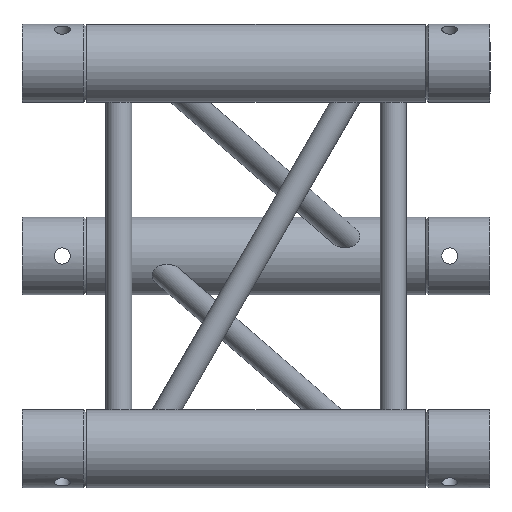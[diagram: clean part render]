
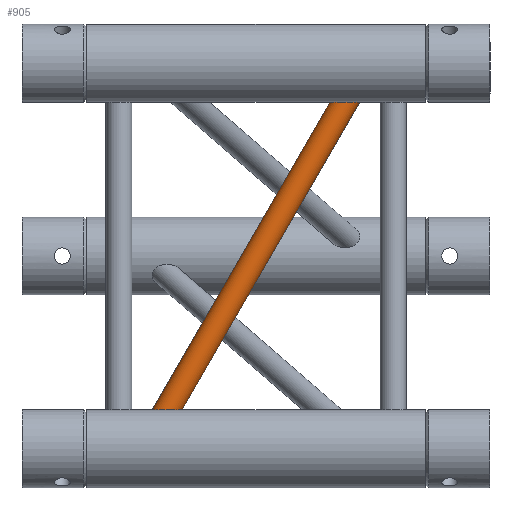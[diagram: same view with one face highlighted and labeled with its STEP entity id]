
A CAD part, front view. The second image highlights one B-rep face of the part: STEP entity #905.
In plain terms, the highlighted cylindrical face has radius 8 mm (diameter 16 mm), a full revolution.
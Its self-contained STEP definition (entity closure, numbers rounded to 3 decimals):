
#119=FACE_BOUND('',#278,.T.);
#179=CYLINDRICAL_SURFACE('',#984,8.);
#205=FACE_OUTER_BOUND('',#277,.T.);
#277=EDGE_LOOP('',(#583));
#278=EDGE_LOOP('',(#584));
#407=ELLIPSE('',#981,9.238,8.);
#408=ELLIPSE('',#983,9.238,8.);
#413=VERTEX_POINT('',#1374);
#414=VERTEX_POINT('',#1377);
#491=EDGE_CURVE('',#413,#413,#407,.T.);
#492=EDGE_CURVE('',#414,#414,#408,.T.);
#583=ORIENTED_EDGE('',*,*,#491,.T.);
#584=ORIENTED_EDGE('',*,*,#492,.T.);
#905=ADVANCED_FACE('',(#205,#119),#179,.T.);
#981=AXIS2_PLACEMENT_3D('',#1375,#1110,#1111);
#983=AXIS2_PLACEMENT_3D('',#1378,#1114,#1115);
#984=AXIS2_PLACEMENT_3D('',#1379,#1116,#1117);
#1110=DIRECTION('center_axis',(0.,0.,
-1.));
#1111=DIRECTION('ref_axis',(-1.,0.,0.));
#1114=DIRECTION('center_axis',(0.,0.,
1.));
#1115=DIRECTION('ref_axis',(-1.,0.,0.));
#1116=DIRECTION('center_axis',(-0.5,0.,
-0.866));
#1117=DIRECTION('ref_axis',(-0.866,0.,0.5));
#1374=CARTESIAN_POINT('',(209.288,0.,-24.151));
#1375=CARTESIAN_POINT('Origin',(200.05,0.,-24.151));
#1377=CARTESIAN_POINT('',(80.712,0.,-214.849));
#1378=CARTESIAN_POINT('Origin',(89.95,0.,-214.849));
#1379=CARTESIAN_POINT('Origin',(145.,0.,-119.5));
